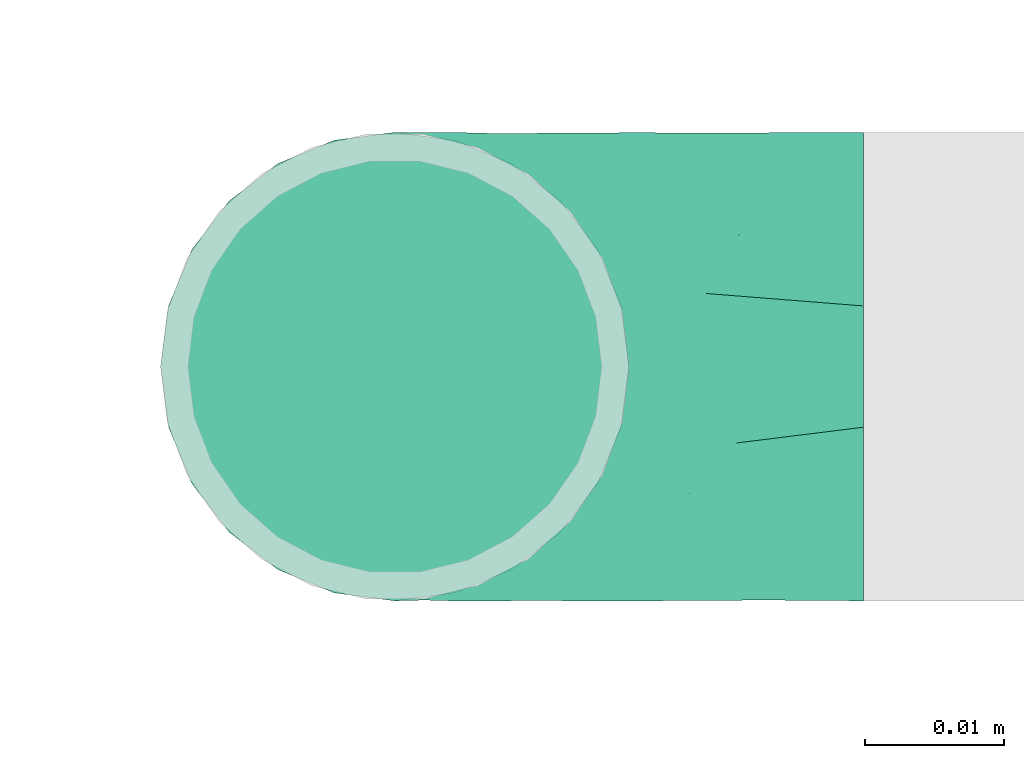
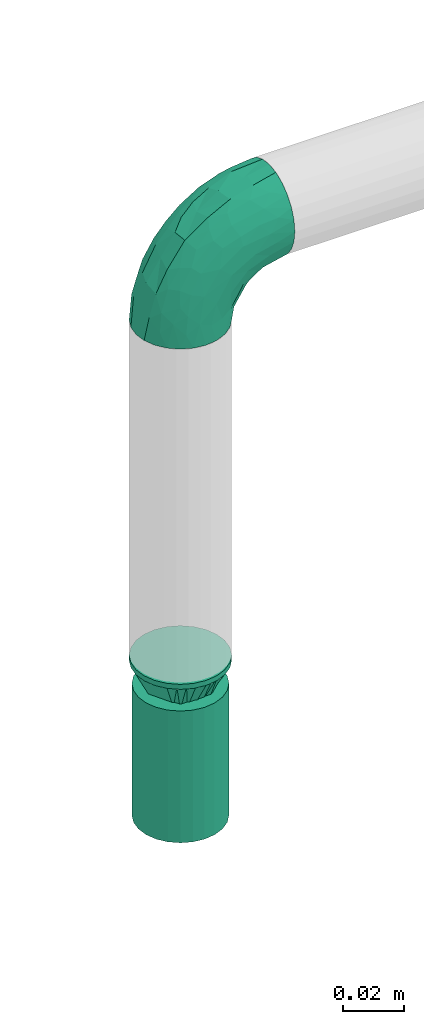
# One storey, part 33 of 157: 2 flow fittings, 1 flow terminal.
"""IFC2X3 building model written with IfcOpenShell, lengths in millimetres."""

from ifc_helpers import new_model, entity, si_unit, converted_unit, derived_unit, direction, frame, origin_with_axes, place, context, subcontext, project, spatial, open_shell, surface_model, source, transform, mapped, type_object, element, save


model = new_model("IFC2X3")

# Units and contexts
model_context = context("Model", 3, precision=0.01, world=frame((0.0, 4.29681676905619e-09, 0.0)), true_north=direction((4.01073788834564e-13, 1.0)))
plan_context = context("Plan", 3, precision=0.01, world=frame((0.0, 4.29681676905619e-09, 0.0)), true_north=direction((4.01073788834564e-13, 1.0)))
body_context = subcontext(model_context, "Body", "Model", "MODEL_VIEW")
ifc_project = project(units=[converted_unit("PLANEANGLEUNIT", "DEGREE", entity("IfcPositiveLengthMeasure", 0.0174532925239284), si_unit("PLANEANGLEUNIT", "RADIAN"), dimensions=[0, 0, 0, 0, 0, 0, 0]), si_unit("AREAUNIT", "SQUARE_METRE"), si_unit("LENGTHUNIT", "METRE", prefix="MILLI"), si_unit("MASSUNIT", "GRAM", prefix="KILO"), si_unit("POWERUNIT", "WATT"), si_unit("PRESSUREUNIT", "PASCAL"), si_unit("FORCEUNIT", "NEWTON", prefix="KILO"), si_unit("ELECTRICCURRENTUNIT", "AMPERE"), si_unit("THERMODYNAMICTEMPERATUREUNIT", "DEGREE_CELSIUS"), si_unit("TIMEUNIT", "SECOND"), si_unit("VOLUMEUNIT", "CUBIC_METRE"), derived_unit("LINEARVELOCITYUNIT", [(si_unit("LENGTHUNIT", "METRE"), 1), (si_unit("TIMEUNIT", "SECOND"), -1)]), derived_unit("VOLUMETRICFLOWRATEUNIT", [(si_unit("VOLUMEUNIT", "CUBIC_METRE"), 1), (si_unit("TIMEUNIT", "SECOND"), -1)]), derived_unit("THERMALTRANSMITTANCEUNIT", [(si_unit("POWERUNIT", "WATT"), 1), (si_unit("THERMODYNAMICTEMPERATUREUNIT", "KELVIN"), -1), (si_unit("AREAUNIT", "SQUARE_METRE"), -1)])], contexts=[model_context, plan_context])

# Site, building, storey
site_placement = place(None, frame((0.0, -4.29681676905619e-09, 0.0), z_axis=(0.0, 0.0, 1.0), x_axis=(1.0, 0.0, 0.0)))
site = spatial("IfcSite", under=ifc_project, at=site_placement, CompositionType="ELEMENT")
building_placement = place(site_placement, frame((0.0, 4.29681676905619e-09, 0.0), z_axis=(0.0, 0.0, 1.0), x_axis=(1.0, 0.0, 0.0)))
building = spatial("IfcBuilding", under=site, at=building_placement, Name="mc-building", CompositionType="ELEMENT")
storey_placement = place(building_placement, frame((0.0, 0.0, 204000.0), z_axis=(0.0, 0.0, 1.0), x_axis=(1.0, 0.0, 0.0)))
storey = spatial("IfcBuildingStorey", under=building, at=storey_placement, Name="Nivå D", CompositionType="ELEMENT", Elevation=204000.0)

# Flow fittings
pipe_fitting_type_1 = type_object("IfcPipeFittingType", Name="magi_pipe_fe_elbow_short_001", PredefinedType="BEND")
shared_shape_1 = source(origin_with_axes(), body_context, "Body", "SurfaceModel", [
    surface_model("IfcShellBasedSurfaceModel", [(-33.8, 8.45, -14.63583), (-33.8, 4.37404, -16.32415), (-33.8, 11.9501, -11.9501), (-33.8, -11.9501, -11.9501), (-33.8, -14.63583, -8.45), (-33.8, -8.45, -14.63583), (-33.8, 0.0, -16.9), (-33.8, -4.37404, -16.32415), (-33.8, -4.37404, 16.32415), (-33.8, 0.0, 16.9), (-33.8, -8.45, 14.63583), (-33.8, 16.32415, -4.37404), (-33.8, 14.63583, -8.45), (-33.8, -16.32415, -4.37404), (-33.8, -16.9, 0.0), (-33.8, -16.32415, 4.37404), (-33.8, 11.9501, 11.9501), (-33.8, 14.63583, 8.45), (-33.8, 16.32415, 4.37404), (-33.8, 4.37404, 16.32415), (-33.8, 8.45, 14.63583), (-33.8, -14.63583, 8.45), (-33.8, -11.9501, 11.9501), (-33.8, 16.9, 0.0), (-11.9501, 33.8, -11.9501), (0.0, 33.8, -16.9), (-4.37404, 33.8, -16.32415), (-8.45, 33.8, -14.63583), (-14.63583, 33.8, -8.45), (-16.32415, 33.8, -4.37404), (14.63583, 33.8, -8.45), (8.45, 33.8, 14.63583), (16.32415, 33.8, -4.37404), (8.45, 33.8, -14.63583), (11.9501, 33.8, -11.9501), (4.37404, 33.8, -16.32415), (16.32415, 33.8, 4.37404), (16.9, 33.8, 0.0), (-11.9501, 33.8, 11.9501), (-16.32415, 33.8, 4.37404), (-14.63583, 33.8, 8.45), (-8.45, 33.8, 14.63583), (-4.37404, 33.8, 16.32415), (11.9501, 33.8, 11.9501), (14.63583, 33.8, 8.45), (0.0, 33.8, 16.9), (4.37404, 33.8, 16.32415), (-16.9, 33.8, 0.0), (-24.79389, -13.12945, 9.48721), (-22.19287, -9.75018, 12.59315), (-24.09897, -14.97035, 0.0), (-14.93934, -10.76256, 8.5297), (-22.46095, -14.75051, 5.27077), (14.75051, 22.46094, 5.27077), (11.9251, 13.23888, 4.33236), (13.04069, 14.39795, 0.0), (7.71387, 13.68847, 11.55891), (9.75018, 22.19287, 12.59315), (4.10169, 13.0571, 14.04018), (-24.84007, -6.39063, 15.2048), (-25.81779, -2.23879, 16.61097), (-23.66549, 2.59054, 16.87119), (-26.50418, 14.06512, 11.08152), (-24.21253, 17.66365, 7.72657), (-29.58514, 15.86957, 7.00283), (-6.17382, -7.5455, 0.0), (-13.23888, -11.9251, 4.33236), (-14.39795, -13.04069, 0.0), (-17.81434, 18.87373, 11.97104), (-6.30846, 29.15138, 15.82987), (-2.31622, 25.28002, 16.85849), (-29.23923, 10.23435, 13.77053), (-1.45439, -2.85688, 7.61475), (-0.28326, 0.34872, 10.09509), (-5.74484, -4.04709, 10.4122), (-4.41137, 11.31918, 16.59407), (-8.39727, 3.10034, 15.7812), (-1.72649, 9.1306, 15.53089), (-17.39909, 24.75344, 7.64977), (-26.19233, 20.0512, 0.0), (-28.14518, 17.29657, 4.25857), (-26.05147, 6.6281, 15.96447), (-5.87354, 16.61944, 16.86968), (-12.51807, 12.51807, 16.48937), (-10.06312, 7.38516, 16.81295), (-3.01882, 3.01882, 13.81718), (-13.0571, -4.10169, 14.04018), (-16.82553, -0.15166, 16.38038), (10.76256, 14.93934, 8.5297), (13.12945, 24.79389, 9.48721), (6.39063, 24.84007, 15.2048), (2.23879, 25.81779, 16.61097), (-13.68847, -7.71387, 11.55891), (14.97035, 24.09897, 0.0), (-7.30894, 22.89991, 16.09489), (-10.67958, 26.17414, 14.008), (-12.78295, 18.26924, 15.06066), (-13.88562, 22.45231, 12.93244), (-18.04944, 15.16501, 14.04434), (-23.11658, 20.08178, 4.02986), (-21.84989, 21.84989, 0.0), (-18.55817, 25.48277, 3.93065), (-13.95142, 26.94732, 11.03289), (-18.57098, 7.23906, 16.59756), (-16.58335, 4.14122, 16.89279), (-17.96666, 11.46709, 15.63151), (-9.84453, 17.54304, 16.18938), (0.15166, 16.82553, 16.38038), (-23.27207, 11.47201, 14.23154), (3.84842, 5.86994, 10.70473), (-8.0212, -7.54413, 7.93275), (1.00345, -2.19508, 4.57414), (5.13203, 3.01004, 5.90201), (5.24161, 1.7543, 2.53265), (8.70457, 7.04947, 3.99182), (-20.0512, 26.19233, 0.0), (8.4852, 8.76699, 7.09296), (-4.55488, -6.72064, 4.90681), (2.05031, -2.05031, 0.0), (7.5455, 6.17382, 0.0), (-26.75399, 2.1369, -16.845), (-14.61995, 24.73803, -11.27736), (-28.45274, -13.45335, -9.81895), (-26.00469, 6.63555, -15.96645), (-23.06726, 20.04573, -4.26202), (-13.80647, -4.26506, -14.17873), (-14.67501, -0.21081, -16.07388), (-6.7902, -0.2828, -13.8478), (-24.53586, 11.08096, -14.13417), (-26.72048, 14.00837, -11.05776), (10.0967, 24.44989, -12.75976), (5.83237, 21.40218, -15.03047), (6.66249, 28.54238, -15.38093), (-20.38182, 15.48705, -12.74596), (12.53268, 21.23441, -9.15363), (12.54494, 15.67504, -5.54878), (9.7522, 12.89279, -8.66343), (-15.65186, 19.64213, -13.01327), (-12.03528, 20.66498, -14.67665), (-15.61907, 15.61906, -14.83879), (-25.56551, -15.26206, 0.0), (-24.65452, -15.12934, -5.50955), (13.45335, 28.45274, -9.81895), (15.12934, 24.65452, -5.50955), (-7.35442, -8.31014, -5.65563), (-15.67504, -12.54494, -5.54878), (-24.44989, -10.0967, -12.75976), (0.16522, 0.41303, -9.71728), (-5.70658, -5.33066, -8.89288), (-5.13869, -2.37198, -11.53565), (-21.23441, -12.53268, -9.15363), (0.71146, 7.93863, -14.09382), (0.21081, 14.67501, -16.07388), (3.49291, 14.42772, -14.76381), (-24.89911, -2.13088, -16.591), (-28.54238, -6.66249, -15.38093), (-18.44386, -7.71663, -13.26957), (2.13088, 24.89911, -16.591), (-28.64342, 17.44413, -2.89318), (1.70017, -1.28722, -5.09504), (-16.57067, 26.81947, -7.36596), (-17.69055, 27.4263, -3.76405), (-12.89279, -9.7522, -8.66343), (-5.96611, 5.96611, -15.95814), (-20.53709, 20.09345, -8.28985), (-2.1369, 26.75399, -16.845), (-6.89872, 24.58781, -16.02578), (-10.60739, 26.53157, -13.98044), (-21.40218, -5.83237, -15.03047), (2.93192, 5.89627, -11.55917), (6.89393, 12.61842, -11.82233), (5.58056, 5.95325, -8.79455), (-3.99512, 18.61798, -16.89635), (8.31014, 7.35442, -5.65563), (-9.1383, 9.86148, -16.89041), (-9.99983, 16.02119, -16.39699), (-16.68576, 9.78031, -16.34199), (-27.01915, 16.61158, -7.12979), (15.26206, 25.56551, 0.0), (-18.61798, 3.99512, -16.89635), (-19.37495, 27.82495, 0.0), (-12.61842, -6.89393, -11.82233), (-18.84705, 19.14018, -10.96545)], [open_shell([[[0, 1, 2]], [[3, 4, 5]], [[6, 7, 5]], [[8, 9, 10]], [[1, 6, 2]], [[11, 12, 2]], [[4, 2, 6]], [[2, 13, 10]], [[5, 4, 6]], [[2, 4, 13]], [[14, 15, 13]], [[11, 2, 16]], [[11, 17, 18]], [[11, 16, 17]], [[19, 20, 16]], [[16, 2, 10]], [[19, 16, 10]], [[21, 22, 15]], [[22, 13, 15]], [[22, 10, 13]], [[10, 9, 19]], [[11, 18, 23]], [[24, 25, 26]], [[24, 26, 27]], [[24, 28, 29]], [[25, 24, 30]], [[31, 32, 24]], [[33, 30, 34]], [[33, 35, 25]], [[25, 30, 33]], [[32, 30, 24]], [[32, 36, 37]], [[38, 24, 29]], [[39, 40, 29]], [[40, 38, 29]], [[38, 41, 42]], [[38, 31, 24]], [[31, 38, 42]], [[36, 43, 44]], [[36, 32, 43]], [[31, 45, 46]], [[32, 31, 43]], [[42, 45, 31]], [[39, 29, 47]], [[22, 48, 49]], [[15, 14, 50]], [[51, 48, 52]], [[53, 54, 55]], [[48, 22, 21]], [[15, 52, 21]], [[56, 57, 58]], [[49, 10, 22]], [[49, 59, 10]], [[9, 60, 61]], [[62, 63, 64]], [[65, 66, 67]], [[57, 43, 31]], [[62, 68, 63]], [[42, 69, 70]], [[20, 71, 16]], [[8, 60, 9]], [[72, 73, 74]], [[75, 76, 77]], [[16, 62, 17]], [[40, 39, 78]], [[79, 23, 80]], [[64, 18, 17]], [[9, 61, 19]], [[19, 81, 20]], [[82, 83, 84]], [[74, 85, 86]], [[59, 86, 87]], [[88, 89, 57]], [[90, 31, 46]], [[44, 53, 36]], [[46, 45, 91]], [[54, 53, 88]], [[44, 89, 53]], [[92, 86, 49]], [[89, 44, 43]], [[10, 59, 8]], [[53, 55, 93]], [[93, 36, 53]], [[66, 52, 67]], [[94, 82, 70]], [[95, 96, 94]], [[97, 98, 96]], [[79, 99, 100]], [[41, 38, 95]], [[101, 100, 99]], [[68, 78, 63]], [[42, 41, 69]], [[23, 18, 80]], [[95, 94, 69]], [[78, 101, 99]], [[38, 102, 95]], [[70, 45, 42]], [[97, 95, 102]], [[15, 50, 52]], [[90, 57, 31]], [[57, 90, 58]], [[81, 19, 61]], [[103, 104, 84]], [[105, 81, 103]], [[38, 40, 102]], [[106, 96, 83]], [[94, 106, 82]], [[91, 70, 107]], [[71, 62, 16]], [[62, 108, 98]], [[86, 59, 49]], [[67, 52, 50]], [[60, 59, 87]], [[92, 49, 51]], [[86, 85, 76]], [[91, 90, 46]], [[37, 36, 93]], [[107, 77, 58]], [[107, 58, 90]], [[58, 85, 109]], [[110, 74, 92]], [[72, 74, 110]], [[66, 51, 52]], [[72, 111, 112]], [[113, 114, 112]], [[56, 88, 57]], [[52, 48, 21]], [[49, 48, 51]], [[57, 89, 43]], [[53, 89, 88]], [[103, 81, 61]], [[71, 81, 108]], [[18, 64, 80]], [[63, 78, 99]], [[47, 115, 101]], [[101, 115, 100]], [[40, 78, 102]], [[68, 102, 78]], [[97, 96, 95]], [[105, 98, 108]], [[103, 84, 83]], [[107, 70, 82]], [[76, 84, 87]], [[82, 84, 75]], [[70, 91, 45]], [[90, 91, 107]], [[59, 60, 8]], [[61, 60, 87]], [[73, 85, 74]], [[109, 112, 116]], [[103, 61, 104]], [[105, 103, 83]], [[96, 105, 83]], [[81, 105, 108]], [[96, 98, 105]], [[62, 98, 68]], [[61, 87, 104]], [[87, 84, 104]], [[86, 76, 87]], [[77, 76, 85]], [[58, 77, 85]], [[75, 77, 107]], [[82, 75, 107]], [[76, 75, 84]], [[81, 71, 20]], [[62, 71, 108]], [[95, 69, 41]], [[70, 69, 94]], [[62, 64, 17]], [[80, 63, 99]], [[63, 80, 64]], [[80, 99, 79]], [[66, 65, 117]], [[110, 66, 117]], [[112, 114, 116]], [[118, 117, 65]], [[110, 92, 51]], [[112, 111, 113]], [[119, 55, 54]], [[74, 86, 92]], [[58, 109, 56]], [[116, 56, 109]], [[66, 110, 51]], [[72, 110, 117]], [[111, 72, 117]], [[73, 112, 109]], [[117, 118, 111]], [[113, 111, 118]], [[118, 119, 113]], [[114, 119, 54]], [[119, 114, 113]], [[116, 54, 88]], [[54, 116, 114]], [[116, 88, 56]], [[112, 73, 72]], [[85, 73, 109]], [[78, 39, 101]], [[47, 101, 39]], [[102, 68, 97]], [[97, 68, 98]], [[82, 106, 83]], [[94, 96, 106]], [[1, 120, 6]], [[28, 24, 121]], [[3, 122, 4]], [[0, 123, 1]], [[100, 124, 79]], [[125, 126, 127]], [[128, 2, 129]], [[130, 131, 132]], [[128, 129, 133]], [[134, 135, 136]], [[137, 138, 139]], [[128, 0, 2]], [[67, 140, 141]], [[134, 142, 143]], [[141, 13, 4]], [[144, 65, 145]], [[146, 3, 5]], [[147, 148, 149]], [[145, 141, 150]], [[151, 152, 153]], [[154, 7, 6]], [[5, 155, 146]], [[150, 146, 156]], [[155, 5, 7]], [[143, 135, 134]], [[35, 157, 25]], [[23, 79, 158]], [[148, 159, 144]], [[160, 161, 29]], [[145, 162, 144]], [[163, 152, 151]], [[29, 28, 160]], [[121, 164, 160]], [[33, 34, 130]], [[25, 165, 26]], [[26, 165, 166]], [[142, 34, 30]], [[24, 27, 167]], [[124, 161, 164]], [[157, 35, 132]], [[155, 154, 168]], [[123, 0, 128]], [[169, 170, 171]], [[172, 157, 152]], [[26, 166, 27]], [[132, 35, 33]], [[142, 130, 34]], [[168, 154, 126]], [[136, 135, 173]], [[133, 137, 139]], [[2, 12, 129]], [[170, 131, 130]], [[30, 32, 143]], [[172, 174, 175]], [[176, 123, 128]], [[158, 177, 11]], [[135, 55, 119]], [[167, 27, 166]], [[175, 166, 172]], [[137, 167, 138]], [[122, 141, 4]], [[140, 14, 13]], [[32, 37, 178]], [[170, 130, 134]], [[152, 157, 131]], [[165, 157, 172]], [[153, 170, 151]], [[152, 163, 174]], [[168, 125, 156]], [[122, 146, 150]], [[120, 154, 6]], [[179, 174, 126]], [[179, 126, 154]], [[126, 163, 127]], [[162, 145, 150]], [[140, 13, 141]], [[32, 178, 143]], [[55, 143, 178]], [[177, 129, 12]], [[128, 133, 139]], [[176, 128, 139]], [[120, 123, 179]], [[121, 160, 28]], [[161, 100, 180]], [[166, 175, 138]], [[121, 24, 167]], [[161, 47, 29]], [[79, 124, 158]], [[124, 164, 177]], [[161, 124, 100]], [[136, 171, 170]], [[127, 163, 151]], [[147, 171, 159]], [[148, 144, 162]], [[127, 151, 169]], [[127, 181, 125]], [[129, 177, 164]], [[12, 11, 177]], [[159, 65, 144]], [[67, 141, 145]], [[143, 55, 135]], [[135, 119, 173]], [[123, 120, 1]], [[154, 120, 179]], [[157, 165, 25]], [[166, 165, 172]], [[172, 152, 174]], [[176, 139, 175]], [[126, 174, 163]], [[176, 174, 179]], [[174, 176, 175]], [[123, 176, 179]], [[150, 181, 162]], [[127, 149, 181]], [[181, 148, 162]], [[159, 148, 147]], [[171, 136, 173]], [[170, 134, 136]], [[159, 171, 173]], [[171, 147, 169]], [[169, 147, 149]], [[151, 170, 169]], [[164, 182, 129]], [[182, 121, 137]], [[181, 149, 148]], [[169, 149, 127]], [[182, 137, 133]], [[167, 137, 121]], [[166, 138, 167]], [[175, 139, 138]], [[129, 182, 133]], [[121, 182, 164]], [[161, 160, 164]], [[47, 161, 180]], [[177, 158, 124]], [[23, 158, 11]], [[130, 132, 33]], [[157, 132, 131]], [[143, 142, 30]], [[130, 142, 134]], [[154, 155, 7]], [[146, 155, 168]], [[146, 122, 3]], [[141, 122, 150]], [[152, 131, 153]], [[159, 119, 118]], [[67, 145, 65]], [[170, 153, 131]], [[119, 159, 173]], [[159, 118, 65]], [[156, 125, 181]], [[126, 125, 168]], [[150, 156, 181]], [[168, 156, 146]]])]),
])
flow_fitting_1_placement = place(storey_placement, frame((531100.0, 405200.0, 2880.0), z_axis=(0.0, 1.0, 0.0), x_axis=(0.0, 0.0, 1.0)))
element("IfcFlowFitting", 1, at=flow_fitting_1_placement, inside=storey, type_object=pipe_fitting_type_1, Name="magi_pipe_fe_elbow_short_001", context=body_context, shape_type="MappedRepresentation", body=[
    mapped(shared_shape_1, transform((0.0, 0.0, 0.0), scale=1.0)),
])
pipe_fitting_type_2 = type_object("IfcPipeFittingType", Name="magi_pipe_fe_reducer_centric_short_NOR", PredefinedType="TRANSITION")
shared_shape_2 = source(origin_with_axes(), body_context, "Body", "SurfaceModel", [
    surface_model("IfcShellBasedSurfaceModel", [(-2.0, -7.56604, -7.56604), (-2.0, -10.33541, -2.76936), (-2.0, -5.35, -9.26647), (-2.0, 5.35, -9.26647), (-2.0, 10.33541, -2.76936), (-2.0, 7.56604, -7.56604), (12.4, 11.9501, 11.9501), (12.4, 0.0, 16.9), (12.4, 11.9501, -11.9501), (12.4, 16.9, 0.0), (0.0, -10.7, 0.0), (0.0, -5.35, 9.26647), (0.0, -5.35, -9.26647), (0.0, 10.7, 0.0), (12.4, 15.66253, -2.98753), (12.4, 8.96258, -13.18758), (0.0, 6.6875, -6.94985), (12.4, -15.66253, -2.98753), (12.4, -16.9, 0.0), (12.4, 5.97505, -14.42505), (0.0, 5.35, -9.26647), (12.4, 14.42505, -5.97505), (0.0, 8.025, -4.63324), (0.0, 9.3625, -2.31662), (0.0, -9.3625, -2.31662), (0.0, -8.025, -4.63324), (12.4, -14.42505, -5.97505), (12.4, 13.18758, -8.96258), (12.4, -13.18758, -8.96258), (12.4, -11.9501, -11.9501), (0.0, -6.6875, -6.94985), (12.4, -8.96258, -13.18758), (12.4, -5.97505, -14.42505), (12.4, -15.66253, 2.98753), (12.4, -8.96258, 13.18758), (0.0, -6.6875, 6.94985), (12.4, -11.9501, 11.9501), (12.4, 15.66253, 2.98753), (12.4, -5.97505, 14.42505), (12.4, -14.42505, 5.97505), (0.0, -8.025, 4.63324), (0.0, -9.3625, 2.31662), (0.0, 9.3625, 2.31662), (0.0, 8.025, 4.63324), (12.4, 14.42505, 5.97505), (12.4, -13.18758, 8.96258), (12.4, 13.18758, 8.96258), (0.0, 6.6875, 6.94985), (12.4, 8.96258, 13.18758), (0.0, 5.35, 9.26647), (12.4, 5.97505, 14.42505), (14.4, 4.37404, -16.32415), (14.4, 8.45, -14.63583), (14.4, 11.9501, -11.9501), (14.4, -8.45, -14.63583), (14.4, 16.32415, -4.37404), (14.4, 16.32415, 4.37404), (14.4, 14.63583, -8.45), (14.4, 0.0, -16.9), (14.4, -4.37404, -16.32415), (14.4, -11.9501, -11.9501), (14.4, -16.32415, -4.37404), (14.4, -14.63583, -8.45), (14.4, -16.32415, 4.37404), (14.4, 16.9, 0.0), (14.4, 14.63583, 8.45), (14.4, 11.9501, 11.9501), (14.4, 4.37404, 16.32415), (14.4, 8.45, 14.63583), (14.4, 0.0, 16.9), (14.4, -14.63583, 8.45), (14.4, -16.9, 0.0), (14.4, -8.45, 14.63583), (14.4, -11.9501, 11.9501), (14.4, -4.37404, 16.32415), (12.4, 4.37404, 16.32415), (12.4, -14.63583, 8.45), (12.4, 16.32415, 4.37404), (12.4, 8.45, 14.63583), (12.4, 14.63583, 8.45), (12.4, -8.45, 14.63583), (12.4, -4.37404, 16.32415), (12.4, -16.32415, 4.37404), (12.4, -16.32415, -4.37404), (12.4, -8.45, -14.63583), (12.4, 16.32415, -4.37404), (12.4, 14.63583, -8.45), (12.4, 8.45, -14.63583), (12.4, 4.37404, -16.32415), (12.4, 0.0, -16.9), (12.4, -14.63583, -8.45), (12.4, -4.37404, -16.32415), (-2.0, 2.76936, 10.33541), (-2.0, 0.0, 10.7), (-2.0, 5.35, 9.26647), (-2.0, 7.56604, 7.56604), (-2.0, 9.26647, 5.35), (-2.0, 10.33541, 2.76936), (-2.0, -10.33541, 2.76936), (-2.0, -2.76936, 10.33541), (-2.0, -7.56604, 7.56604), (-2.0, -5.35, 9.26647), (-2.0, -9.26647, 5.35), (-2.0, -10.7, 0.0), (-2.0, 9.26647, -5.35), (-2.0, 2.76936, -10.33541), (-2.0, -9.26647, -5.35), (-2.0, 0.0, -10.7), (-2.0, -2.76936, -10.33541), (-2.0, 10.7, 0.0), (0.0, 0.0, -10.7), (0.0, 2.76936, -10.33541), (0.0, 10.33541, -2.76936), (0.0, 7.56604, -7.56604), (0.0, -10.33541, -2.76936), (0.0, 9.26647, -5.35), (0.0, 0.0, 10.7), (0.0, -2.76936, -10.33541), (0.0, -7.56604, -7.56604), (0.0, -9.26647, -5.35), (0.0, 10.33541, 2.76936), (0.0, 9.26647, 5.35), (0.0, 7.56604, 7.56604), (0.0, 2.76936, 10.33541), (0.0, -7.56604, 7.56604), (0.0, -10.33541, 2.76936), (0.0, -9.26647, 5.35), (0.0, -2.76936, 10.33541), (0.0, 2.675, -9.26647), (0.0, -2.675, -9.26647), (12.4, 2.98753, -15.66253), (0.0, 0.0, -9.26647), (12.4, -2.98753, -15.66253), (0.0, -2.675, 9.26647), (0.0, 2.675, 9.26647), (12.4, -2.98753, 15.66253), (0.0, 0.0, 9.26647), (12.4, 2.98753, 15.66253)], [open_shell([[[0, 1, 2]], [[3, 4, 5]], [[6, 7, 8]], [[8, 9, 6]], [[10, 11, 12]], [[13, 9, 14]], [[15, 16, 8]], [[17, 18, 10]], [[15, 19, 20]], [[21, 22, 23]], [[24, 25, 26]], [[22, 21, 27]], [[28, 26, 25]], [[29, 30, 31]], [[12, 32, 31]], [[10, 18, 33]], [[34, 35, 36]], [[37, 9, 13]], [[34, 38, 11]], [[39, 40, 41]], [[42, 43, 44]], [[40, 39, 45]], [[46, 44, 43]], [[6, 47, 48]], [[49, 50, 48]], [[51, 52, 53]], [[54, 51, 53]], [[53, 55, 56]], [[55, 53, 57]], [[53, 56, 54]], [[58, 54, 59]], [[58, 51, 54]], [[60, 61, 62]], [[61, 60, 54]], [[54, 63, 61]], [[56, 55, 64]], [[56, 65, 66]], [[56, 66, 67]], [[67, 63, 54]], [[67, 66, 68]], [[63, 67, 69]], [[69, 70, 63]], [[71, 61, 63]], [[70, 72, 73]], [[70, 69, 72]], [[72, 69, 74]], [[54, 56, 67]], [[75, 76, 7]], [[77, 75, 78]], [[6, 79, 77]], [[6, 77, 78]], [[76, 75, 77]], [[80, 76, 36]], [[80, 81, 7]], [[7, 76, 80]], [[82, 76, 77]], [[82, 83, 18]], [[82, 77, 84]], [[77, 85, 8]], [[8, 85, 86]], [[8, 87, 88]], [[84, 77, 8]], [[88, 89, 8]], [[83, 29, 90]], [[29, 83, 84]], [[84, 89, 91]], [[83, 82, 84]], [[8, 89, 84]], [[85, 77, 9]], [[83, 61, 18]], [[90, 62, 83]], [[54, 29, 84]], [[90, 29, 60]], [[59, 84, 91]], [[83, 62, 61]], [[61, 71, 18]], [[59, 54, 84]], [[60, 29, 54]], [[60, 62, 90]], [[58, 59, 91]], [[91, 89, 58]], [[88, 51, 89]], [[87, 52, 88]], [[57, 8, 86]], [[87, 8, 53]], [[55, 86, 85]], [[87, 53, 52]], [[52, 51, 88]], [[64, 55, 85]], [[57, 86, 55]], [[57, 53, 8]], [[9, 64, 85]], [[89, 51, 58]], [[77, 56, 9]], [[79, 65, 77]], [[68, 6, 78]], [[79, 6, 66]], [[67, 78, 75]], [[77, 65, 56]], [[56, 64, 9]], [[67, 68, 78]], [[66, 6, 68]], [[66, 65, 79]], [[69, 67, 75]], [[75, 7, 69]], [[81, 74, 7]], [[80, 72, 81]], [[70, 36, 76]], [[80, 36, 73]], [[63, 76, 82]], [[80, 73, 72]], [[72, 74, 81]], [[71, 63, 82]], [[70, 76, 63]], [[70, 73, 36]], [[18, 71, 82]], [[7, 74, 69]], [[92, 1, 93]], [[94, 1, 92]], [[95, 96, 97]], [[95, 97, 94]], [[98, 93, 1]], [[99, 100, 101]], [[99, 93, 100]], [[100, 98, 102]], [[93, 98, 100]], [[98, 1, 103]], [[94, 97, 1]], [[1, 97, 4]], [[5, 4, 104]], [[4, 3, 1]], [[105, 1, 3]], [[1, 0, 106]], [[2, 107, 108]], [[2, 1, 105]], [[105, 107, 2]], [[4, 97, 109]], [[20, 110, 111]], [[112, 20, 113]], [[114, 20, 112]], [[112, 113, 115]], [[116, 114, 112]], [[110, 12, 117]], [[110, 20, 12]], [[118, 114, 119]], [[114, 118, 12]], [[20, 114, 12]], [[112, 13, 120]], [[120, 121, 122]], [[120, 122, 123]], [[116, 112, 123]], [[123, 122, 49]], [[116, 124, 114]], [[125, 124, 126]], [[10, 114, 125]], [[124, 127, 11]], [[125, 114, 124]], [[127, 124, 116]], [[123, 112, 120]], [[1, 114, 103]], [[106, 119, 1]], [[12, 0, 2]], [[106, 0, 118]], [[117, 2, 108]], [[1, 119, 114]], [[114, 10, 103]], [[117, 12, 2]], [[118, 0, 12]], [[118, 119, 106]], [[110, 117, 108]], [[108, 107, 110]], [[105, 111, 107]], [[3, 20, 105]], [[115, 5, 104]], [[3, 5, 113]], [[112, 104, 4]], [[3, 113, 20]], [[20, 111, 105]], [[13, 112, 4]], [[115, 104, 112]], [[115, 113, 5]], [[109, 13, 4]], [[107, 111, 110]], [[97, 120, 109]], [[96, 121, 97]], [[49, 95, 94]], [[96, 95, 122]], [[123, 94, 92]], [[97, 121, 120]], [[120, 13, 109]], [[123, 49, 94]], [[122, 95, 49]], [[122, 121, 96]], [[116, 123, 92]], [[92, 93, 116]], [[99, 127, 93]], [[101, 11, 99]], [[126, 100, 102]], [[101, 100, 124]], [[125, 102, 98]], [[101, 124, 11]], [[11, 127, 99]], [[10, 125, 98]], [[126, 102, 125]], [[126, 124, 100]], [[103, 10, 98]], [[93, 127, 116]], [[18, 7, 36]], [[18, 29, 8]], [[89, 8, 29]], [[18, 8, 7]], [[13, 11, 49]], [[13, 20, 12]], [[13, 12, 11]], [[24, 26, 17]], [[10, 24, 17]], [[16, 15, 20]], [[30, 12, 31]], [[23, 14, 21]], [[19, 128, 20]], [[27, 8, 16]], [[32, 12, 129]], [[30, 28, 25]], [[130, 131, 128]], [[129, 132, 32]], [[16, 22, 27]], [[13, 14, 23]], [[128, 19, 130]], [[130, 89, 131]], [[131, 132, 129]], [[89, 132, 131]], [[28, 30, 29]], [[42, 44, 37]], [[13, 42, 37]], [[35, 34, 11]], [[47, 49, 48]], [[41, 33, 39]], [[38, 133, 11]], [[45, 36, 35]], [[50, 49, 134]], [[47, 46, 43]], [[135, 136, 133]], [[134, 137, 50]], [[35, 40, 45]], [[10, 33, 41]], [[133, 38, 135]], [[135, 7, 136]], [[136, 137, 134]], [[7, 137, 136]], [[46, 47, 6]]])]),
])
flow_fitting_2_placement = place(storey_placement, frame((531100.0, 405200.0, 2696.95199999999), z_axis=(0.0, -1.0, 0.0), x_axis=(0.0, 0.0, 1.0)))
element("IfcFlowFitting", 2, at=flow_fitting_2_placement, inside=storey, type_object=pipe_fitting_type_2, Name="magi_pipe_fe_reducer_centric_short_NOR", context=body_context, shape_type="MappedRepresentation", body=[
    mapped(shared_shape_2, transform((0.0, 0.0, 0.0), scale=1.0)),
])

# Flow terminal
fire_suppression_terminal_type = type_object("IfcFireSuppressionTerminalType", Name="SP-15-K80-68DGR-STD-HIMLING", PredefinedType="NOTDEFINED")
shared_shape_3 = source(origin_with_axes(), body_context, "Body", "SurfaceModel", [
    surface_model("IfcShellBasedSurfaceModel", [(4.1411, -15.45481, 53.0), (8.0, -13.85641, 53.0), (11.31371, -11.31371, 53.0), (-8.0, -13.85641, 53.0), (15.45481, -4.1411, 53.0), (16.0, 0.0, 53.0), (13.85641, -8.0, 53.0), (0.0, -16.0, 53.0), (-4.1411, -15.45481, 53.0), (-13.85641, -8.0, 53.0), (-11.31371, -11.31371, 53.0), (-15.45481, -4.1411, 53.0), (15.45481, 4.1411, 53.0), (13.85641, 8.0, 53.0), (11.31371, 11.31371, 53.0), (-4.1411, 15.45481, 53.0), (8.0, 13.85641, 53.0), (4.1411, 15.45481, 53.0), (0.0, 16.0, 53.0), (-13.85641, 8.0, 53.0), (-15.45481, 4.1411, 53.0), (-16.0, 0.0, 53.0), (-11.31371, 11.31371, 53.0), (-8.0, 13.85641, 53.0), (0.0, 16.0, 0.0), (4.1411, 15.45481, 0.0), (8.0, 13.85641, 0.0), (-4.1411, 15.45481, 0.0), (11.31371, 11.31371, 0.0), (13.85641, 8.0, 0.0), (15.45481, 4.1411, 0.0), (-15.45481, -4.1411, 0.0), (-11.31371, 11.31371, 0.0), (-8.0, 13.85641, 0.0), (-13.85641, 8.0, 0.0), (-15.45481, 4.1411, 0.0), (-16.0, 0.0, 0.0), (4.1411, -15.45481, 0.0), (16.0, 0.0, 0.0), (15.45481, -4.1411, 0.0), (13.85641, -8.0, 0.0), (11.31371, -11.31371, 0.0), (8.0, -13.85641, 0.0), (-8.0, -13.85641, 0.0), (-13.85641, -8.0, 0.0), (-11.31371, -11.31371, 0.0), (0.0, -16.0, 0.0), (-4.1411, -15.45481, 0.0)], [open_shell([[[0, 1, 2]], [[3, 0, 2]], [[4, 5, 2]], [[4, 2, 6]], [[3, 2, 5]], [[7, 3, 8]], [[7, 0, 3]], [[3, 9, 10]], [[9, 3, 11]], [[5, 11, 3]], [[5, 12, 11]], [[12, 13, 14]], [[15, 12, 14]], [[16, 17, 18]], [[14, 16, 15]], [[18, 15, 16]], [[11, 19, 20]], [[21, 11, 20]], [[22, 15, 23]], [[15, 22, 19]], [[19, 11, 15]], [[11, 12, 15]], [[24, 25, 26]], [[27, 24, 26]], [[28, 29, 30]], [[27, 26, 28]], [[27, 28, 31]], [[27, 32, 33]], [[32, 27, 34]], [[34, 31, 35]], [[31, 34, 27]], [[35, 31, 36]], [[28, 30, 31]], [[37, 38, 39]], [[37, 39, 40]], [[41, 42, 37]], [[41, 37, 40]], [[38, 37, 43]], [[44, 43, 45]], [[43, 44, 31]], [[43, 46, 47]], [[43, 31, 38]], [[37, 46, 43]], [[38, 31, 30]], [[11, 31, 44]], [[45, 9, 44]], [[3, 43, 47]], [[45, 43, 10]], [[8, 47, 46]], [[31, 21, 36]], [[31, 11, 21]], [[44, 9, 11]], [[45, 10, 9]], [[3, 10, 43]], [[47, 8, 3]], [[46, 7, 8]], [[0, 37, 42]], [[41, 1, 42]], [[6, 40, 39]], [[41, 40, 2]], [[4, 39, 38]], [[37, 0, 7]], [[42, 1, 0]], [[41, 2, 1]], [[40, 6, 2]], [[4, 6, 39]], [[38, 5, 4]], [[37, 7, 46]], [[12, 38, 30]], [[13, 30, 29]], [[16, 26, 25]], [[17, 25, 24]], [[30, 13, 12]], [[12, 5, 38]], [[28, 14, 13]], [[28, 26, 14]], [[14, 26, 16]], [[25, 17, 16]], [[28, 13, 29]], [[24, 18, 17]], [[15, 27, 33]], [[32, 23, 33]], [[19, 34, 35]], [[32, 34, 22]], [[20, 35, 36]], [[27, 15, 18]], [[33, 23, 15]], [[32, 22, 23]], [[34, 19, 22]], [[20, 19, 35]], [[36, 21, 20]], [[27, 18, 24]]])]),
])
flow_terminal_placement = place(storey_placement, frame((531100.0, 405200.0, 2700.0), z_axis=(0.0, 0.0, -1.0), x_axis=(1.0, 0.0, 0.0)))
element("IfcFlowTerminal", 3, at=flow_terminal_placement, inside=storey, type_object=fire_suppression_terminal_type, Name="SP-15-K80-68DGR-STD-HIMLING", context=body_context, shape_type="MappedRepresentation", body=[
    mapped(shared_shape_3, transform((0.0, 0.0, 0.0), scale=1.0)),
])

save(model, "model.ifc")
